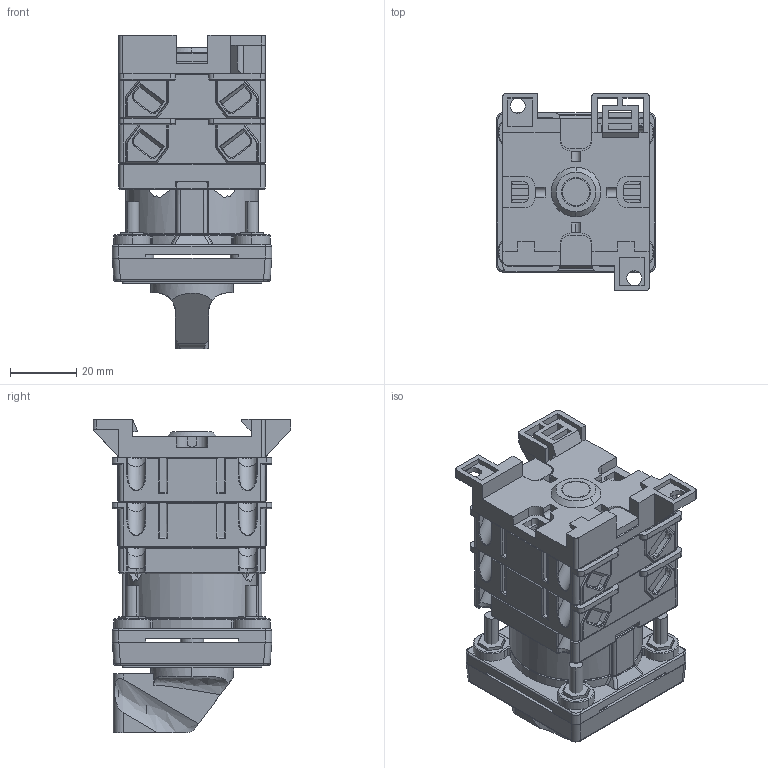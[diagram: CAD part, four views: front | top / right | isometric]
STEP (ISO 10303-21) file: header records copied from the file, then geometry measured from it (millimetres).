
FILE_DESCRIPTION (( 'STEP AP214' ), '1' );
FILE_NAME ('Ïåðåêëþ÷àòåëü 4G10-XXXX-U-S18-R012,R014,S24 2ê.STEP', '2022-11-28T05:48:54', ( '' ), ( '' ), 'SwSTEP 2.0', 'SolidWorks 2018', '' );
FILE_SCHEMA (( 'AUTOMOTIVE_DESIGN' ));
Length unit declared in the file: millimetre
Products named in the file (1): Ïåðåêëþ÷àòåëü 4G10-XXXX-U-S18-R012,R014,S24 2ê
Bounding box: 48 x 59.6 x 94.4 mm (x, y, z)
Volume: 116150.1 mm3; surface area: 65150.2 mm2
Topology: 25 solids, 41 shells, 3375 faces, 8698 edges, 5483 vertices
Faces by surface type: plane 1882, cylinder 1077, torus 164, cone 133, bspline 67, sphere 52
Entity records: 149771 total; most frequent: CARTESIAN_POINT 31195, ORIENTED_EDGE 17298, DIRECTION 16585, EDGE_CURVE 8649, LINE 5661, VECTOR 5661, VERTEX_POINT 5471, AXIS2_PLACEMENT_3D 5462
